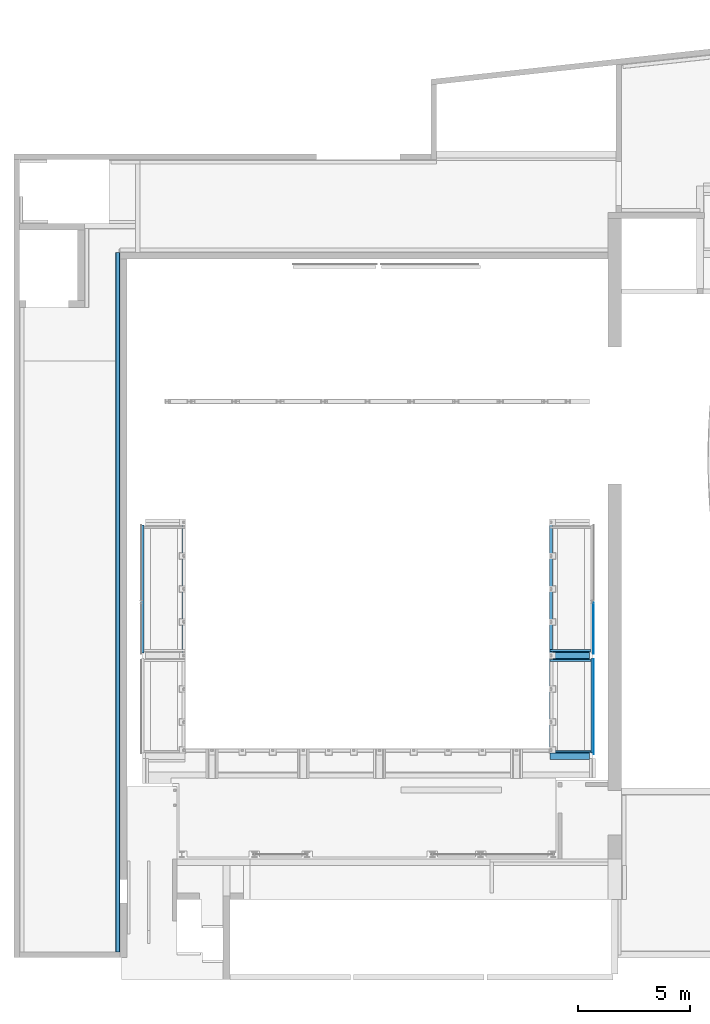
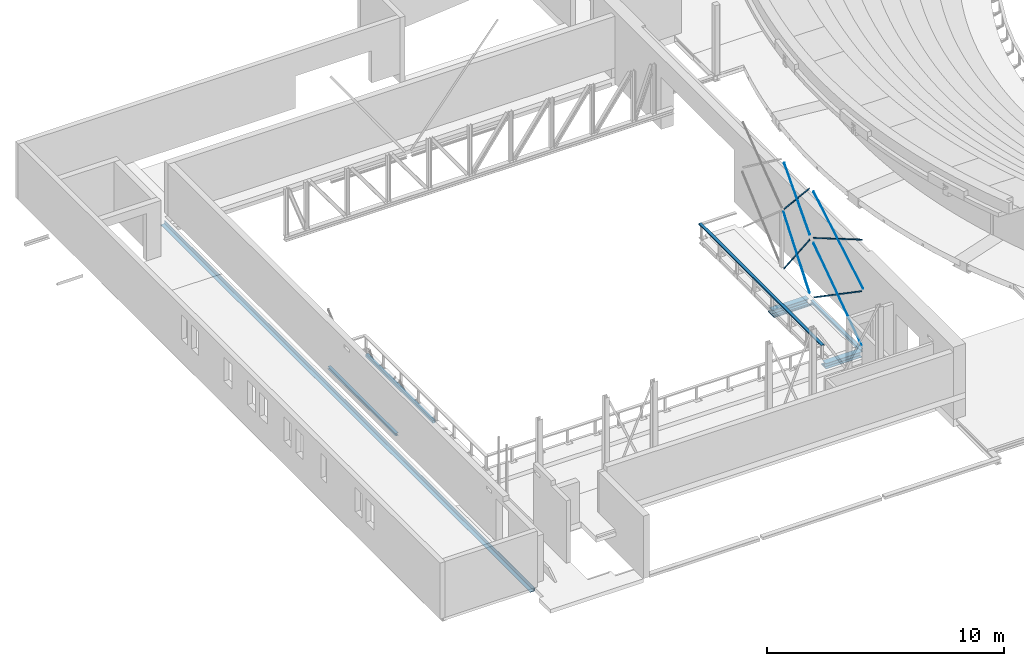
# One storey, part 18 of 68: 18 beams.
"""IFC2X3 building model written with IfcOpenShell, lengths in millimetres."""

from ifc_helpers import new_model, entity, si_unit, converted_unit, derived_unit, direction, frame, frame_2d, origin, origin_2d_with_axis, place, context, subcontext, project, spatial, polyline, circle_curve, parameter, trimmed, segment, composite_curve, rectangle, i_section, outline, extrude, source, transform, mapped, material, material_list, type_object, type_shapes, element, save


model = new_model("IFC2X3")

# Units and contexts
model_context = context("Model", 3, precision=0.01, world=origin(), true_north=direction((6.12303176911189e-17, 1.0)))
body_context = subcontext(model_context, "Body", "Model", "MODEL_VIEW")
ifc_project = project(units=[si_unit("LENGTHUNIT", "METRE", prefix="MILLI"), si_unit("AREAUNIT", "SQUARE_METRE", prefix="MILLI"), si_unit("VOLUMEUNIT", "CUBIC_METRE"), converted_unit("PLANEANGLEUNIT", "DEGREE", entity("IfcRatioMeasure", 0.0174532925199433), si_unit("PLANEANGLEUNIT", "RADIAN"), dimensions=[0, 0, 0, 0, 0, 0, 0]), si_unit("MASSUNIT", "GRAM", prefix="KILO"), derived_unit("MASSDENSITYUNIT", [(si_unit("MASSUNIT", "GRAM", prefix="KILO"), 1), (si_unit("LENGTHUNIT", "METRE"), -3)]), derived_unit("MOMENTOFINERTIAUNIT", [(si_unit("LENGTHUNIT", "METRE"), 4)]), si_unit("TIMEUNIT", "SECOND"), si_unit("FREQUENCYUNIT", "HERTZ"), si_unit("THERMODYNAMICTEMPERATUREUNIT", "DEGREE_CELSIUS"), derived_unit("THERMALTRANSMITTANCEUNIT", [(si_unit("MASSUNIT", "GRAM", prefix="KILO"), 1), (si_unit("THERMODYNAMICTEMPERATUREUNIT", "KELVIN"), -1), (si_unit("TIMEUNIT", "SECOND"), -3)]), derived_unit("VOLUMETRICFLOWRATEUNIT", [(si_unit("LENGTHUNIT", "METRE"), 3), (si_unit("TIMEUNIT", "SECOND"), -1)]), si_unit("ELECTRICCURRENTUNIT", "AMPERE"), si_unit("ELECTRICVOLTAGEUNIT", "VOLT"), si_unit("POWERUNIT", "WATT"), si_unit("FORCEUNIT", "NEWTON", prefix="KILO"), si_unit("ILLUMINANCEUNIT", "LUX"), si_unit("LUMINOUSFLUXUNIT", "LUMEN"), si_unit("LUMINOUSINTENSITYUNIT", "CANDELA"), derived_unit("USERDEFINED", [(si_unit("MASSUNIT", "GRAM", prefix="KILO"), -1), (si_unit("LENGTHUNIT", "METRE"), -2), (si_unit("TIMEUNIT", "SECOND"), 3), (si_unit("LUMINOUSFLUXUNIT", "LUMEN"), 1)]), derived_unit("LINEARVELOCITYUNIT", [(si_unit("LENGTHUNIT", "METRE"), 1), (si_unit("TIMEUNIT", "SECOND"), -1)]), si_unit("PRESSUREUNIT", "PASCAL"), derived_unit("USERDEFINED", [(si_unit("LENGTHUNIT", "METRE"), -2), (si_unit("MASSUNIT", "GRAM", prefix="KILO"), 1), (si_unit("TIMEUNIT", "SECOND"), -2)]), derived_unit("LINEARFORCEUNIT", [(si_unit("MASSUNIT", "GRAM", prefix="KILO"), 1), (si_unit("LENGTHUNIT", "METRE"), 1), (si_unit("TIMEUNIT", "SECOND"), -2), (si_unit("LENGTHUNIT", "METRE"), -1)]), derived_unit("PLANARFORCEUNIT", [(si_unit("MASSUNIT", "GRAM", prefix="KILO"), 1), (si_unit("LENGTHUNIT", "METRE"), 1), (si_unit("TIMEUNIT", "SECOND"), -2), (si_unit("LENGTHUNIT", "METRE"), -2)])], contexts=[model_context])

# Site, building, storey
site_placement = place(None, origin())
site = spatial("IfcSite", under=ifc_project, at=site_placement, Name="Theater aan de Parade", CompositionType="ELEMENT")
building_placement = place(site_placement, origin())
building = spatial("IfcBuilding", under=site, at=building_placement, Name="Theater aan de Parade", CompositionType="ELEMENT")
storey_placement = place(building_placement, frame((0.0, 0.0, 8750.0)))
storey = spatial("IfcBuildingStorey", under=building, at=storey_placement, Name="02 tweede verdieping", CompositionType="ELEMENT", Elevation=8750.0)

# Beams
ifc_material_1 = material(Name="00_PBT_MAT_staal_S355")
ifc_material_2 = material(Name="00_PBT_MAT_Lucht")
ifc_material_list_1 = material_list([ifc_material_1, ifc_material_2])
beam_type_1 = type_object("IfcBeamType", Name="28_PBT_SF_staal_H-profiel_met_onderplaat (void):S355_HE280B + onderplaat d=12", PredefinedType="BEAM", material=ifc_material_list_1)
shared_shape_1 = source(origin(), body_context, "Body", "SweptSolid", [
    extrude(rectangle(XDim=12.0, YDim=530.0, at=origin_2d_with_axis()), frame((-858.501156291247, 0.0, -146.0), z_axis=(1.0, 0.0, 0.0), x_axis=(0.0, 0.0, -1.0)), (0.0, 0.0, 1.0), 1767.00115629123),
    extrude(outline(composite_curve([segment(polyline([(122.0, -140.0), (140.0, -140.0)]), True, "CONTINUOUS"), segment(polyline([(140.0, -140.0), (140.0, 140.0)]), True, "CONTINUOUS"), segment(polyline([(140.0, 140.0), (122.0, 140.0)]), True, "CONTINUOUS"), segment(polyline([(122.0, 140.0), (122.0, 29.25)]), True, "CONTINUOUS"), segment(trimmed(circle_curve(frame_2d((98.0, 29.25), x_axis=(1.0, 0.0)), 24.0), [parameter(270.0)], [parameter(0.0)], True, "PARAMETER"), False, "CONTINUOUS"), segment(polyline([(98.0, 5.24999999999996), (-98.0, 5.24999999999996)]), True, "CONTINUOUS"), segment(trimmed(circle_curve(frame_2d((-98.0, 29.25), x_axis=(0.0, -1.0)), 24.0), [parameter(270.0)], [parameter(0.0)], True, "PARAMETER"), False, "CONTINUOUS"), segment(polyline([(-122.0, 29.25), (-122.0, 140.0)]), True, "CONTINUOUS"), segment(polyline([(-122.0, 140.0), (-140.0, 140.0)]), True, "CONTINUOUS"), segment(polyline([(-140.0, 140.0), (-140.0, -140.0)]), True, "CONTINUOUS"), segment(polyline([(-140.0, -140.0), (-122.0, -140.0)]), True, "CONTINUOUS"), segment(polyline([(-122.0, -140.0), (-122.0, -29.25)]), True, "CONTINUOUS"), segment(trimmed(circle_curve(frame_2d((-98.0, -29.25), x_axis=(-1.0, 0.0)), 24.0), [parameter(270.0)], [parameter(0.0)], True, "PARAMETER"), False, "CONTINUOUS"), segment(polyline([(-98.0, -5.25000000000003), (98.0, -5.25000000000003)]), True, "CONTINUOUS"), segment(trimmed(circle_curve(frame_2d((98.0, -29.25), x_axis=(0.0, 1.0)), 24.0), [parameter(270.0)], [parameter(0.0)], True, "PARAMETER"), False, "CONTINUOUS"), segment(polyline([(122.0, -29.25), (122.0, -140.0)]), True, "CONTINUOUS")], self_intersect=False)), frame((-858.501156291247, 0.0, 0.0), z_axis=(1.0, 0.0, 0.0), x_axis=(0.0, 0.0, -1.0)), (0.0, 0.0, 1.0), 1767.00115629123),
])
type_shapes(beam_type_1, [shared_shape_1])
beam_1_placement = place(storey_placement, frame((35155.3569737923, 23568.2922984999, -210.0), z_axis=(0.0, 0.0, 1.0), x_axis=(-1.0, 0.0, 0.0)))
element("IfcBeam", 1, at=beam_1_placement, inside=storey, type_object=beam_type_1, material=ifc_material_1, Name="28_PBT_SF_staal_H-profiel_met_onderplaat (void):S355_HE280B + onderplaat d=12", ObjectType="28_PBT_SF_staal_H-profiel_met_onderplaat (void):S355_HE280B + onderplaat d=12", context=body_context, shape_type="MappedRepresentation", body=[
    mapped(shared_shape_1, transform((0.0, 0.0, 0.0), scale=1.0)),
])
beam_type_2 = type_object("IfcBeamType", Name="28_PBT_SF_staal_koker:S355_K150x150x10", PredefinedType="NOTDEFINED")
beam_2_placement = place(storey_placement, frame((17885.8570032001, 29378.2922984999, 0.0), z_axis=(0.0, 0.0, 1.0), x_axis=(0.0, -1.0, 0.0)))
element("IfcBeam", 2, at=beam_2_placement, inside=storey, type_object=beam_type_2, material=ifc_material_1, Name="28_PBT_SF_staal_koker:S355_K150x150x10", ObjectType="28_PBT_SF_staal_koker:S355_K150x150x10", context=body_context, shape_type="SweptSolid", body=[
    extrude(outline(composite_curve([segment(polyline([(-60.0, -75.0), (60.0, -75.0)]), True, "CONTINUOUS"), segment(trimmed(circle_curve(frame_2d((60.0, -60.0), x_axis=(0.0, 1.0)), 15.0), [parameter(180.0)], [parameter(270.0)], True, "PARAMETER"), True, "CONTINUOUS"), segment(polyline([(75.0, -60.0), (75.0, 60.0)]), True, "CONTINUOUS"), segment(trimmed(circle_curve(frame_2d((60.0, 60.0), x_axis=(0.0, 1.0)), 15.0), [parameter(270.0)], [parameter(360.0)], True, "PARAMETER"), True, "CONTINUOUS"), segment(polyline([(60.0, 75.0), (-60.0, 75.0)]), True, "CONTINUOUS"), segment(trimmed(circle_curve(frame_2d((-60.0, 60.0), x_axis=(0.0, 1.0)), 15.0), [parameter(0.0)], [parameter(90.0000000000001)], True, "PARAMETER"), True, "CONTINUOUS"), segment(polyline([(-75.0, 60.0), (-75.0, -60.0)]), True, "CONTINUOUS"), segment(trimmed(circle_curve(frame_2d((-60.0, -60.0), x_axis=(0.0, 1.0)), 15.0), [parameter(90.0)], [parameter(180.0)], True, "PARAMETER"), True, "CONTINUOUS")], self_intersect=False), holes=[composite_curve([segment(polyline([(65.0, 55.0), (65.0, -55.0)]), True, "CONTINUOUS"), segment(trimmed(circle_curve(frame_2d((55.0, -55.0), x_axis=(0.0, 1.0)), 10.0), [parameter(180.0)], [parameter(270.0)], True, "PARAMETER"), False, "CONTINUOUS"), segment(polyline([(55.0, -65.0), (-55.0, -65.0)]), True, "CONTINUOUS"), segment(trimmed(circle_curve(frame_2d((-55.0, -55.0), x_axis=(0.0, 1.0)), 10.0), [parameter(90.0)], [parameter(180.0)], True, "PARAMETER"), False, "CONTINUOUS"), segment(polyline([(-65.0, -55.0), (-65.0, 55.0)]), True, "CONTINUOUS"), segment(trimmed(circle_curve(frame_2d((-55.0, 55.0), x_axis=(0.0, 1.0)), 10.0), [parameter(4.07110999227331e-13)], [parameter(90.0000000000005)], True, "PARAMETER"), False, "CONTINUOUS"), segment(polyline([(-55.0, 65.0), (55.0, 65.0)]), True, "CONTINUOUS"), segment(trimmed(circle_curve(frame_2d((55.0, 55.0), x_axis=(0.0, 1.0)), 10.0), [parameter(270.0)], [parameter(0.0)], True, "PARAMETER"), False, "CONTINUOUS")], self_intersect=False)]), frame((0.0, 0.0, -225.0), z_axis=(1.0, 0.0, 0.0), x_axis=(0.0, 0.0, 1.0)), (0.0, 0.0, 1.0), 5669.99999999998),
])
beam_type_3 = type_object("IfcBeamType", Name="28_PBT_SF_staal_H-profiel:S355_HE140A", PredefinedType="NOTDEFINED")
beam_3_placement = place(storey_placement, frame((16053.8570032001, 29408.2922984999, 0.0), z_axis=(0.0, 0.0, 1.0), x_axis=(0.0, -1.0, 0.0)))
element("IfcBeam", 3, at=beam_3_placement, inside=storey, type_object=beam_type_3, material=ifc_material_1, Name="28_PBT_SF_staal_H-profiel:S355_HE140A", ObjectType="28_PBT_SF_staal_H-profiel:S355_HE140A", context=body_context, shape_type="SweptSolid", body=[
    extrude(i_section(OverallWidth=139.999999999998, OverallDepth=133.0, WebThickness=5.49999999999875, FlangeThickness=8.49999999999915, FilletRadius=11.9999999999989, at=frame_2d((0.0, -2.1600499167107e-12), x_axis=(0.0, 1.0))), frame((0.0, 0.0, -233.500000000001), z_axis=(1.0, 0.0, 0.0), x_axis=(0.0, 0.0, -1.0)), (0.0, 0.0, 1.0), 5729.99999999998),
])
beam_4_placement = place(storey_placement, frame((36153.8581300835, 19208.2922984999, 0.0), z_axis=(0.0, 0.0, 1.0), x_axis=(0.0, 1.0, 0.0)))
element("IfcBeam", 4, at=beam_4_placement, inside=storey, type_object=beam_type_3, material=ifc_material_1, Name="28_PBT_SF_staal_H-profiel:S355_HE140A", ObjectType="28_PBT_SF_staal_H-profiel:S355_HE140A", context=body_context, shape_type="SweptSolid", body=[
    extrude(outline(composite_curve([segment(polyline([(58.0, -70.0), (66.5, -70.0)]), True, "CONTINUOUS"), segment(polyline([(66.5, -70.0), (66.5, 70.0)]), True, "CONTINUOUS"), segment(polyline([(66.5, 70.0), (58.0, 70.0)]), True, "CONTINUOUS"), segment(polyline([(58.0, 70.0), (58.0, 14.750000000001)]), True, "CONTINUOUS"), segment(trimmed(circle_curve(frame_2d((46.0, 14.7500000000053), x_axis=(1.0, 0.0)), 12.0000000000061), [parameter(270.000000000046)], [parameter(0.0)], True, "PARAMETER"), False, "CONTINUOUS"), segment(polyline([(46.0, 2.75000000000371), (-46.0, 2.75000000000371)]), True, "CONTINUOUS"), segment(trimmed(circle_curve(frame_2d((-46.0, 14.7500000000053), x_axis=(0.0, -1.0)), 12.0000000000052), [parameter(270.000000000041)], [parameter(0.0)], True, "PARAMETER"), False, "CONTINUOUS"), segment(polyline([(-58.0, 14.750000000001), (-58.0, 70.0)]), True, "CONTINUOUS"), segment(polyline([(-58.0, 70.0), (-66.5, 70.0)]), True, "CONTINUOUS"), segment(polyline([(-66.5, 70.0), (-66.5, -70.0)]), True, "CONTINUOUS"), segment(polyline([(-66.5, -70.0), (-58.0, -70.0)]), True, "CONTINUOUS"), segment(polyline([(-58.0, -70.0), (-58.0, -14.7499999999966)]), True, "CONTINUOUS"), segment(trimmed(circle_curve(frame_2d((-46.0, -14.750000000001), x_axis=(-1.0, 0.0)), 12.0000000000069), [parameter(270.000000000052)], [parameter(0.0)], True, "PARAMETER"), False, "CONTINUOUS"), segment(polyline([(-46.0, -2.74999999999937), (46.0, -2.74999999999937)]), True, "CONTINUOUS"), segment(trimmed(circle_curve(frame_2d((46.0, -14.750000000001), x_axis=(0.0, 1.0)), 12.0000000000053), [parameter(270.000000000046)], [parameter(0.0)], True, "PARAMETER"), False, "CONTINUOUS"), segment(polyline([(58.0, -14.7499999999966), (58.0, -70.0)]), True, "CONTINUOUS")], self_intersect=False)), frame((0.0, 0.0, -233.500000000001), z_axis=(1.0, 0.0, 0.0), x_axis=(0.0, 0.0, -1.0)), (0.0, 0.0, 1.0), 4220.00000000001),
])
beam_type_4 = type_object("IfcBeamType", Name="28_PBT_SF_staal_UNP-profiel:S355_UNP140", PredefinedType="NOTDEFINED")
beam_5_placement = place(storey_placement, frame((34296.8574772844, 19273.3067296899, 0.0), z_axis=(0.0, 0.0, 1.0), x_axis=(0.0, 1.0, 0.0)))
element("IfcBeam", 5, at=beam_5_placement, inside=storey, type_object=beam_type_4, material=ifc_material_1, Name="28_PBT_SF_staal_UNP-profiel:S355_UNP140", ObjectType="28_PBT_SF_staal_UNP-profiel:S355_UNP140", context=body_context, shape_type="SweptSolid", body=[
    extrude(outline(composite_curve([segment(polyline([(-33.1002123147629, -70.0), (26.8997876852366, -70.0)]), True, "CONTINUOUS"), segment(polyline([(26.8997876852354, -70.0), (26.8997876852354, -67.0159744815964)]), True, "CONTINUOUS"), segment(trimmed(circle_curve(frame_2d((21.8997876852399, -67.0159744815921), x_axis=(1.0, 0.0)), 4.99999999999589), [parameter(0.0)], [parameter(85.4260787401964)], True, "PARAMETER"), True, "CONTINUOUS"), segment(polyline([(22.2985137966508, -62.031898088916), (-16.8976645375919, -58.8962038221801)]), True, "CONTINUOUS"), segment(trimmed(circle_curve(frame_2d((-16.1002123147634, -48.9280510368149), x_axis=(-0.0797452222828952, -0.996815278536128)), 10.0000000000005), [parameter(274.573921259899)], [parameter(0.0)], True, "PARAMETER"), False, "CONTINUOUS"), segment(polyline([(-26.1002123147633, -48.9280510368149), (-26.1002123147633, 48.9280510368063)]), True, "CONTINUOUS"), segment(trimmed(circle_curve(frame_2d((-16.1002123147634, 48.9280510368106), x_axis=(-1.0, 0.0)), 10.0), [parameter(274.573921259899)], [parameter(0.0)], True, "PARAMETER"), False, "CONTINUOUS"), segment(polyline([(-16.8976645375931, 58.8962038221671), (22.2985137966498, 62.0318980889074)]), True, "CONTINUOUS"), segment(trimmed(circle_curve(frame_2d((21.8997876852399, 67.0159744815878), x_axis=(0.0797452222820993, -0.996815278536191)), 4.9999999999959), [parameter(0.0)], [parameter(85.4260787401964)], True, "PARAMETER"), True, "CONTINUOUS"), segment(polyline([(26.8997876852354, 67.0159744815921), (26.8997876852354, 70.0)]), True, "CONTINUOUS"), segment(polyline([(26.8997876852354, 70.0), (-33.1002123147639, 70.0)]), True, "CONTINUOUS"), segment(polyline([(-33.1002123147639, 70.0), (-33.1002123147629, -70.0)]), True, "CONTINUOUS")], self_intersect=False)), frame((0.0, 0.0, 636.899787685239), z_axis=(1.0, 0.0, 0.0), x_axis=(0.0, 0.0, -1.0)), (0.0, 0.0, 1.0), 10384.98556881),
])
beam_type_5 = type_object("IfcBeamType", Name="28_PBT_SF_staal_L-profiel:S355_L200x200x20", PredefinedType="NOTDEFINED")
beam_6_placement = place(storey_placement, frame((14997.0570025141, 41573.3083270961, 0.0), z_axis=(0.0, 0.0, 1.0), x_axis=(0.0, -1.0, 0.0)))
element("IfcBeam", 6, at=beam_6_placement, inside=storey, type_object=beam_type_5, material=ifc_material_1, Name="28_PBT_SF_staal_L-profiel:S355_L200x200x20", ObjectType="28_PBT_SF_staal_L-profiel:S355_L200x200x20", context=body_context, shape_type="SweptSolid", body=[
    extrude(outline(composite_curve([segment(polyline([(64.5555555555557, -124.444444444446), (75.5555555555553, -124.444444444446)]), True, "CONTINUOUS"), segment(polyline([(75.5555555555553, -124.444444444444), (75.5555555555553, 75.5555555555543)]), True, "CONTINUOUS"), segment(polyline([(75.5555555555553, 75.5555555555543), (-124.444444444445, 75.5555555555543)]), True, "CONTINUOUS"), segment(polyline([(-124.444444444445, 75.5555555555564), (-124.444444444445, 64.5555555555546)]), True, "CONTINUOUS"), segment(trimmed(circle_curve(frame_2d((-115.444444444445, 64.5555555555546), x_axis=(-1.0, 0.0)), 9.00000000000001), [parameter(0.0)], [parameter(90.0000000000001)], True, "PARAMETER"), True, "CONTINUOUS"), segment(polyline([(-115.444444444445, 55.5555555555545), (37.5555555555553, 55.5555555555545)]), True, "CONTINUOUS"), segment(trimmed(circle_curve(frame_2d((37.5555555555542, 37.5555555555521), x_axis=(0.0, 1.0)), 18.0000000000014), [parameter(270.00000000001)], [parameter(0.0)], True, "PARAMETER"), False, "CONTINUOUS"), segment(polyline([(55.5555555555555, 37.5555555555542), (55.5555555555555, -115.444444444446)]), True, "CONTINUOUS"), segment(trimmed(circle_curve(frame_2d((64.5555555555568, -115.444444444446), x_axis=(-1.0, 0.0)), 9.0000000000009), [parameter(0.0)], [parameter(89.9999999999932)], True, "PARAMETER"), True, "CONTINUOUS")], self_intersect=False)), frame((0.0, -18.7555555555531, 215.555555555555), z_axis=(1.0, 0.0, 0.0), x_axis=(0.0, 0.0, -1.0)), (0.0, 0.0, 1.0), 31253.9812524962),
])
ifc_material_3 = material(Name="00_PBT_MAT_staal")
beam_type_6 = type_object("IfcBeamType", Name="28_PBT_SF_staal_strip:strip 6x60", PredefinedType="NOTDEFINED")
beam_7_placement = place(storey_placement, frame((36204.3581300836, 19285.1707916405, -25.1724036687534), z_axis=(0.0, -0.566501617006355, 0.824060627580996), x_axis=(0.0, 0.824060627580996, 0.566501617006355)))
element("IfcBeam", 7, at=beam_7_placement, inside=storey, type_object=beam_type_6, material=ifc_material_3, Name="28_PBT_SF_staal_strip:strip 6x60", ObjectType="28_PBT_SF_staal_strip:strip 6x60", context=body_context, shape_type="SweptSolid", body=[
    extrude(rectangle(XDim=60.0000000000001, YDim=6.00000000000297, at=frame_2d((-1.50457424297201e-12, -2.16582307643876e-12), x_axis=(1.0, 0.0))), frame((0.0, -3.0, 0.0), z_axis=(1.0, 0.0, 0.0), x_axis=(0.0, 0.0, -1.0)), (0.0, 0.0, 1.0), 4940.0),
])
beam_8_placement = place(storey_placement, frame((36213.3581300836, 19305.0154653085, 2750.34901500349), z_axis=(0.0, 0.565689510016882, 0.824618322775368), x_axis=(0.0, 0.824618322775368, -0.565689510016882)))
element("IfcBeam", 8, at=beam_8_placement, inside=storey, type_object=beam_type_6, material=ifc_material_3, Name="28_PBT_SF_staal_strip:strip 6x60", ObjectType="28_PBT_SF_staal_strip:strip 6x60", context=body_context, shape_type="SweptSolid", body=[
    extrude(rectangle(XDim=59.9999999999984, YDim=5.99999999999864, at=origin_2d_with_axis()), frame((0.0, 3.0, 0.0), z_axis=(1.0, 0.0, 0.0), x_axis=(0.0, 0.0, -1.0)), (0.0, 0.0, 1.0), 4900.0),
])
beam_9_placement = place(storey_placement, frame((36213.3581300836, 23702.3941133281, -1.29039403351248), z_axis=(1.0, 0.0, 0.0), x_axis=(0.0, 0.612702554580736, 0.790313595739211)))
element("IfcBeam", 9, at=beam_9_placement, inside=storey, type_object=beam_type_6, material=ifc_material_3, Name="28_PBT_SF_staal_strip:strip 6x60", ObjectType="28_PBT_SF_staal_strip:strip 6x60", context=body_context, shape_type="SweptSolid", body=[
    extrude(rectangle(XDim=59.999999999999, YDim=6.00000000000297, at=frame_2d((2.16560103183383e-12, -2.70894418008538e-12), x_axis=(0.0, 1.0))), frame((0.0, 0.0, -3.0), z_axis=(1.0, 0.0, 0.0), x_axis=(0.0, 0.0, -1.0)), (0.0, 0.0, 1.0), 3600.0),
])
beam_10_placement = place(storey_placement, frame((36213.3581300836, 23568.2922984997, 5550.0), z_axis=(1.0, 0.0, 0.0), x_axis=(0.0, 0.672602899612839, -0.740003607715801)))
element("IfcBeam", 10, at=beam_10_placement, inside=storey, type_object=beam_type_6, material=ifc_material_3, Name="28_PBT_SF_staal_strip:strip 6x60", ObjectType="28_PBT_SF_staal_strip:strip 6x60", context=body_context, shape_type="SweptSolid", body=[
    extrude(rectangle(XDim=59.9999999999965, YDim=5.99999999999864, at=frame_2d((2.16582307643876e-12, 2.33058017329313e-12), x_axis=(0.0, 1.0))), frame((215.777997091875, 0.0, -3.0), z_axis=(1.0, 0.0, 0.0), x_axis=(0.0, 0.0, -1.0)), (0.0, 0.0, 1.0), 3220.0310134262),
])
beam_11_placement = place(storey_placement, frame((36198.3581300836, 25902.1234124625, -95.365218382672), z_axis=(1.0, 0.0, 0.0), x_axis=(0.0, -0.612702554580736, 0.790313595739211)))
element("IfcBeam", 11, at=beam_11_placement, inside=storey, type_object=beam_type_6, material=ifc_material_3, Name="28_PBT_SF_staal_strip:strip 6x60", ObjectType="28_PBT_SF_staal_strip:strip 6x60", context=body_context, shape_type="SweptSolid", body=[
    extrude(rectangle(XDim=59.9999999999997, YDim=6.00000000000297, at=frame_2d((-2.16582307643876e-12, -3.33955085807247e-13), x_axis=(0.0, 1.0))), frame((0.0, 0.0, 3.0), z_axis=(1.0, 0.0, 0.0), x_axis=(0.0, 0.0, -1.0)), (0.0, 0.0, 1.0), 3620.0),
])
beam_12_placement = place(storey_placement, frame((36198.3581300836, 25969.7497549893, 5568.51915273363), z_axis=(1.0, 0.0, 0.0), x_axis=(0.0, -0.671013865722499, -0.741444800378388)))
element("IfcBeam", 12, at=beam_12_placement, inside=storey, type_object=beam_type_6, material=ifc_material_3, Name="28_PBT_SF_staal_strip:strip 6x60", ObjectType="28_PBT_SF_staal_strip:strip 6x60", context=body_context, shape_type="SweptSolid", body=[
    extrude(rectangle(XDim=59.9999999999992, YDim=6.00000000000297, at=frame_2d((-2.16582307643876e-12, -3.06066283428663e-12), x_axis=(0.0, 1.0))), frame((200.537797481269, 0.0, 3.0), z_axis=(1.0, 0.0, 0.0), x_axis=(0.0, 0.0, -1.0)), (0.0, 0.0, 1.0), 3214.38039354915),
])
beam_13_placement = place(storey_placement, frame((36213.3581300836, 19176.6695176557, 2978.46088277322), z_axis=(0.0, -0.50530112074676, 0.86294309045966), x_axis=(0.0, 0.86294309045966, 0.50530112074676)))
element("IfcBeam", 13, at=beam_13_placement, inside=storey, type_object=beam_type_6, material=ifc_material_3, Name="28_PBT_SF_staal_strip:strip 6x60", ObjectType="28_PBT_SF_staal_strip:strip 6x60", context=body_context, shape_type="SweptSolid", body=[
    extrude(rectangle(XDim=59.999999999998, YDim=5.99999999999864, at=frame_2d((9.34363697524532e-13, 2.16560103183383e-12), x_axis=(1.0, 0.0))), frame((0.0, 3.0, 0.0), z_axis=(1.0, 0.0, 0.0), x_axis=(0.0, 0.0, -1.0)), (0.0, 0.0, 1.0), 4849.03899660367),
])
beam_14_placement = place(storey_placement, frame((36204.3581300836, 19069.3287565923, 5548.58742340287), z_axis=(0.0, 0.505183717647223, 0.863011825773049), x_axis=(0.0, 0.863011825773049, -0.505183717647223)))
element("IfcBeam", 14, at=beam_14_placement, inside=storey, type_object=beam_type_6, material=ifc_material_3, Name="28_PBT_SF_staal_strip:strip 6x60", ObjectType="28_PBT_SF_staal_strip:strip 6x60", context=body_context, shape_type="SweptSolid", body=[
    extrude(rectangle(XDim=60.0, YDim=5.99999999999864, at=frame_2d((9.36140054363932e-13, 0.0), x_axis=(1.0, 0.0))), frame((214.946403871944, -3.0, 0.0), z_axis=(1.0, 0.0, 0.0), x_axis=(0.0, 0.0, -1.0)), (0.0, 0.0, 1.0), 4785.63403453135),
])
ifc_material_list_2 = material_list([ifc_material_1, ifc_material_2])
beam_type_7 = type_object("IfcBeamType", Name="28_PBT_SF_staal_H-profiel_met_ondergelaste_strip (void):S355_HE280B + ondergelaste strip d=12", PredefinedType="BEAM", material=ifc_material_list_2)
shared_shape_2 = source(origin(), body_context, "Body", "SweptSolid", [
    extrude(rectangle(XDim=12.0, YDim=400.0, at=frame_2d((1.68753899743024e-14, 2.8421709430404e-14), x_axis=(1.0, 0.0))), frame((-857.50115629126, -65.0, -146.0), z_axis=(1.0, 0.0, 0.0), x_axis=(0.0, 0.0, -1.0)), (0.0, 0.0, 1.0), 1765.00115629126),
    extrude(i_section(OverallWidth=280.0, OverallDepth=280.0, WebThickness=10.5, FlangeThickness=17.9999999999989, FilletRadius=24.0, at=frame_2d((-3.97903932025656e-13, 0.0), x_axis=(0.0, 1.0))), frame((-858.50115629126, 0.0, 0.0), z_axis=(1.0, 0.0, 0.0), x_axis=(0.0, 0.0, -1.0)), (0.0, 0.0, 1.0), 1767.00115629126),
])
type_shapes(beam_type_7, [shared_shape_2])
beam_15_placement = place(storey_placement, frame((35155.3569737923, 19068.2922984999, -210.0), z_axis=(0.0, 0.0, 1.0), x_axis=(-1.0, 0.0, 0.0)))
element("IfcBeam", 15, at=beam_15_placement, inside=storey, type_object=beam_type_7, material=ifc_material_1, Name="28_PBT_SF_staal_H-profiel_met_ondergelaste_strip (void):S355_HE280B + ondergelaste strip d=12", ObjectType="28_PBT_SF_staal_H-profiel_met_ondergelaste_strip (void):S355_HE280B + ondergelaste strip d=12", context=body_context, shape_type="MappedRepresentation", body=[
    mapped(shared_shape_2, transform((0.0, 0.0, 0.0), scale=1.0)),
])
ifc_material_4 = material(Name="00_PBT_MAT_staal_S235")
beam_type_8 = type_object("IfcBeamType", Name="28_PBT_SF_staal_koker:S235_K50x90x5", PredefinedType="NOTDEFINED")
beam_16_placement = place(storey_placement, frame((36153.8581300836, 23348.2922985, 0.0), z_axis=(0.0, 0.0, 1.0), x_axis=(-1.0, 0.0, 0.0)))
element("IfcBeam", 16, at=beam_16_placement, inside=storey, type_object=beam_type_8, material=ifc_material_4, Name="28_PBT_SF_staal_koker:S235_K50x90x5", ObjectType="28_PBT_SF_staal_koker:S235_K50x90x5", context=body_context, shape_type="SweptSolid", body=[
    extrude(outline(composite_curve([segment(trimmed(circle_curve(frame_2d((-37.5000000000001, -17.5000000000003), x_axis=(1.0, 0.0)), 7.5), [parameter(180.0)], [parameter(270.0)], True, "PARAMETER"), True, "CONTINUOUS"), segment(polyline([(-37.5000000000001, -25.0), (37.5000000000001, -25.0)]), True, "CONTINUOUS"), segment(trimmed(circle_curve(frame_2d((37.5000000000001, -17.5000000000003), x_axis=(1.0, 0.0)), 7.5), [parameter(270.0)], [parameter(0.0)], True, "PARAMETER"), True, "CONTINUOUS"), segment(polyline([(45.0, -17.5000000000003), (45.0, 17.4999999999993)]), True, "CONTINUOUS"), segment(trimmed(circle_curve(frame_2d((37.5000000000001, 17.4999999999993), x_axis=(1.0, 0.0)), 7.5), [parameter(3.56222124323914e-13)], [parameter(90.0000000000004)], True, "PARAMETER"), True, "CONTINUOUS"), segment(polyline([(37.5000000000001, 25.0), (-37.5000000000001, 25.0)]), True, "CONTINUOUS"), segment(trimmed(circle_curve(frame_2d((-37.5000000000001, 17.4999999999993), x_axis=(1.0, 0.0)), 7.5), [parameter(90.0000000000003)], [parameter(180.0)], True, "PARAMETER"), True, "CONTINUOUS"), segment(polyline([(-45.0, 17.4999999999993), (-45.0, -17.5000000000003)]), True, "CONTINUOUS")], self_intersect=False), holes=[composite_curve([segment(trimmed(circle_curve(frame_2d((35.0, 15.0), x_axis=(1.0, 0.0)), 5.0), [parameter(360.0)], [parameter(90.0000000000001)], True, "PARAMETER"), False, "CONTINUOUS"), segment(polyline([(40.0, 15.0), (40.0, -15.0)]), True, "CONTINUOUS"), segment(trimmed(circle_curve(frame_2d((35.0, -15.0), x_axis=(1.0, 0.0)), 5.0), [parameter(269.999999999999)], [parameter(360.0)], True, "PARAMETER"), False, "CONTINUOUS"), segment(polyline([(35.0, -20.0), (-35.0, -20.0)]), True, "CONTINUOUS"), segment(trimmed(circle_curve(frame_2d((-35.0, -15.0), x_axis=(1.0, 0.0)), 5.0), [parameter(180.0)], [parameter(270.0)], True, "PARAMETER"), False, "CONTINUOUS"), segment(polyline([(-40.0, -15.0), (-40.0, 15.0)]), True, "CONTINUOUS"), segment(trimmed(circle_curve(frame_2d((-35.0, 15.0), x_axis=(1.0, 0.0)), 5.0), [parameter(90.0)], [parameter(180.0)], True, "PARAMETER"), False, "CONTINUOUS"), segment(polyline([(-35.0, 20.0), (35.0, 20.0)]), True, "CONTINUOUS")], self_intersect=False)]), frame((70.0, 0.0, -325.0), z_axis=(1.0, 0.0, 0.0), x_axis=(0.0, 1.0, 0.0)), (0.0, 0.0, 1.0), 1837.00115629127),
])
beam_17_placement = place(storey_placement, frame((36153.8581300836, 23788.2922985, 0.0), z_axis=(0.0, 0.0, 1.0), x_axis=(-1.0, 0.0, 0.0)))
element("IfcBeam", 17, at=beam_17_placement, inside=storey, type_object=beam_type_8, material=ifc_material_4, Name="28_PBT_SF_staal_koker:S235_K50x90x5", ObjectType="28_PBT_SF_staal_koker:S235_K50x90x5", context=body_context, shape_type="SweptSolid", body=[
    extrude(outline(composite_curve([segment(polyline([(-17.4999999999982, -45.0), (17.5000000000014, -45.0)]), True, "CONTINUOUS"), segment(trimmed(circle_curve(frame_2d((17.5000000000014, -37.5000000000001), x_axis=(0.0, 1.0)), 7.5), [parameter(180.0)], [parameter(270.0)], True, "PARAMETER"), True, "CONTINUOUS"), segment(polyline([(25.0, -37.4999999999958), (25.0, 37.5000000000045)]), True, "CONTINUOUS"), segment(trimmed(circle_curve(frame_2d((17.5000000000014, 37.5000000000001), x_axis=(0.0, 1.0)), 7.5), [parameter(270.0)], [parameter(360.0)], True, "PARAMETER"), True, "CONTINUOUS"), segment(polyline([(17.5000000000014, 45.0), (-17.4999999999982, 45.0)]), True, "CONTINUOUS"), segment(trimmed(circle_curve(frame_2d((-17.4999999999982, 37.5000000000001), x_axis=(0.0, 1.0)), 7.5), [parameter(0.0)], [parameter(90.0000000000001)], True, "PARAMETER"), True, "CONTINUOUS"), segment(polyline([(-25.0, 37.5000000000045), (-25.0, -37.4999999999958)]), True, "CONTINUOUS"), segment(trimmed(circle_curve(frame_2d((-17.4999999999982, -37.5000000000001), x_axis=(0.0, 1.0)), 7.5), [parameter(89.9999999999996)], [parameter(180.0)], True, "PARAMETER"), True, "CONTINUOUS")], self_intersect=False), holes=[composite_curve([segment(polyline([(20.0, 35.0), (20.0, -35.0)]), True, "CONTINUOUS"), segment(trimmed(circle_curve(frame_2d((15.0, -35.0), x_axis=(0.0, 1.0)), 5.0), [parameter(180.0)], [parameter(270.0)], True, "PARAMETER"), False, "CONTINUOUS"), segment(polyline([(15.0, -40.0), (-15.0, -40.0)]), True, "CONTINUOUS"), segment(trimmed(circle_curve(frame_2d((-15.0, -35.0), x_axis=(0.0, 1.0)), 5.0), [parameter(90.0000000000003)], [parameter(180.0)], True, "PARAMETER"), False, "CONTINUOUS"), segment(polyline([(-20.0, -35.0), (-20.0, 35.0)]), True, "CONTINUOUS"), segment(trimmed(circle_curve(frame_2d((-15.0, 35.0), x_axis=(0.0, 1.0)), 5.0), [parameter(3.56222124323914e-13)], [parameter(90.0000000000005)], True, "PARAMETER"), False, "CONTINUOUS"), segment(polyline([(-15.0, 40.0), (15.0, 40.0)]), True, "CONTINUOUS"), segment(trimmed(circle_curve(frame_2d((15.0, 35.0), x_axis=(0.0, 1.0)), 5.0), [parameter(270.0)], [parameter(5.08888749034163e-14)], True, "PARAMETER"), False, "CONTINUOUS")], self_intersect=False)]), frame((70.0, 0.0, -325.0), z_axis=(1.0, 0.0, 0.0), x_axis=(0.0, 0.0, 1.0)), (0.0, 0.0, 1.0), 1837.00115629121),
])
beam_18_placement = place(storey_placement, frame((36153.8581300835, 19288.2922985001, 0.0), z_axis=(0.0, 0.0, 1.0), x_axis=(-1.0, 0.0, 0.0)))
element("IfcBeam", 18, at=beam_18_placement, inside=storey, type_object=beam_type_8, material=ifc_material_4, Name="28_PBT_SF_staal_koker:S235_K50x90x5", ObjectType="28_PBT_SF_staal_koker:S235_K50x90x5", context=body_context, shape_type="SweptSolid", body=[
    extrude(outline(composite_curve([segment(polyline([(-17.4999999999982, -45.0), (17.5000000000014, -45.0)]), True, "CONTINUOUS"), segment(trimmed(circle_curve(frame_2d((17.5000000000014, -37.5000000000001), x_axis=(0.0, 1.0)), 7.5), [parameter(180.0)], [parameter(270.0)], True, "PARAMETER"), True, "CONTINUOUS"), segment(polyline([(25.0, -37.5000000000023), (25.0, 37.499999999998)]), True, "CONTINUOUS"), segment(trimmed(circle_curve(frame_2d((17.5000000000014, 37.5000000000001), x_axis=(0.0, 1.0)), 7.5), [parameter(270.0)], [parameter(360.0)], True, "PARAMETER"), True, "CONTINUOUS"), segment(polyline([(17.5000000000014, 45.0), (-17.4999999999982, 45.0)]), True, "CONTINUOUS"), segment(trimmed(circle_curve(frame_2d((-17.4999999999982, 37.5000000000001), x_axis=(0.0, 1.0)), 7.5), [parameter(0.0)], [parameter(90.0000000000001)], True, "PARAMETER"), True, "CONTINUOUS"), segment(polyline([(-25.0, 37.499999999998), (-25.0, -37.5000000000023)]), True, "CONTINUOUS"), segment(trimmed(circle_curve(frame_2d((-17.4999999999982, -37.5000000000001), x_axis=(0.0, 1.0)), 7.5), [parameter(89.9999999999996)], [parameter(180.0)], True, "PARAMETER"), True, "CONTINUOUS")], self_intersect=False), holes=[composite_curve([segment(polyline([(20.0, 35.0), (20.0, -35.0)]), True, "CONTINUOUS"), segment(trimmed(circle_curve(frame_2d((15.0, -35.0), x_axis=(0.0, 1.0)), 5.0), [parameter(180.0)], [parameter(270.0)], True, "PARAMETER"), False, "CONTINUOUS"), segment(polyline([(15.0, -40.0), (-15.0, -40.0)]), True, "CONTINUOUS"), segment(trimmed(circle_curve(frame_2d((-15.0, -35.0), x_axis=(0.0, 1.0)), 5.0), [parameter(90.0000000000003)], [parameter(180.0)], True, "PARAMETER"), False, "CONTINUOUS"), segment(polyline([(-20.0, -35.0), (-20.0, 35.0)]), True, "CONTINUOUS"), segment(trimmed(circle_curve(frame_2d((-15.0, 35.0), x_axis=(0.0, 1.0)), 5.0), [parameter(3.56222124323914e-13)], [parameter(90.0000000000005)], True, "PARAMETER"), False, "CONTINUOUS"), segment(polyline([(-15.0, 40.0), (15.0, 40.0)]), True, "CONTINUOUS"), segment(trimmed(circle_curve(frame_2d((15.0, 35.0), x_axis=(0.0, 1.0)), 5.0), [parameter(270.0)], [parameter(5.08888749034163e-14)], True, "PARAMETER"), False, "CONTINUOUS")], self_intersect=False)]), frame((70.0, 0.0, -325.0), z_axis=(1.0, 0.0, 0.0), x_axis=(0.0, 0.0, 1.0)), (0.0, 0.0, 1.0), 1837.00115629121),
])

save(model, "model.ifc")
